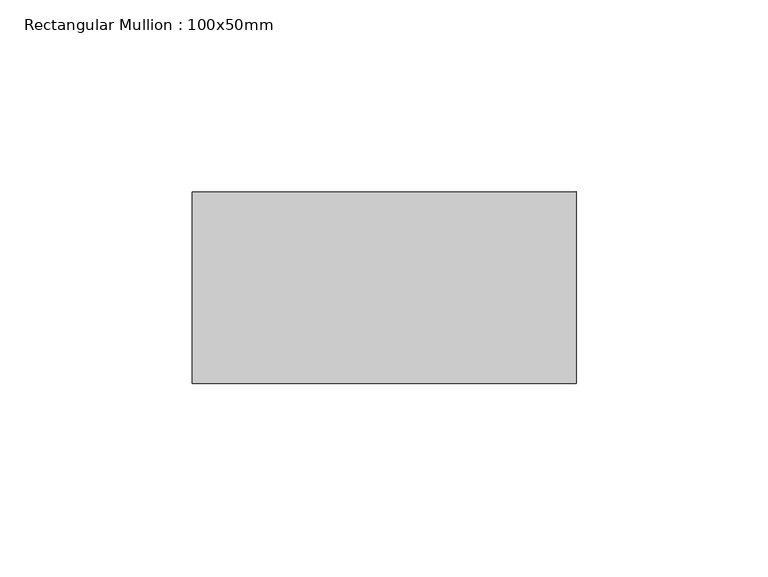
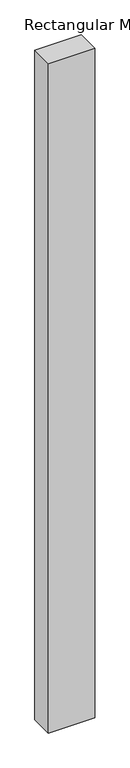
"""IFC4 building model written with IfcOpenShell, lengths in millimetres: member geometry, Rectangular Mullion : 100x50mm."""

import ifcopenshell
import ifcopenshell.guid

model = None  # the IFC model being written
_history = None  # IfcOwnerHistory: only IFC2X3 demands one
_inside = {}  # id of a spatial element -> (the spatial element, [elements in it])
_under = {}  # id of a project, library or spatial element -> (it, [spatial elements below it])
_declared = {}  # id of a project -> (the project, [libraries it declares])
_typed = {}  # id of a type object -> (the type object, [elements of that type])
_made_of = {}  # id of a material, layer set ... -> (it, [elements and type objects made of it])


def new_model(schema):
    """Start an empty IFC model of exactly this schema.

    Asked for "IFC4X3", IfcOpenShell would pick the latest addendum, in which some entities
    have other attributes; the version numbers below select the first issue.
    IFC2X3 requires an IfcOwnerHistory on every rooted entity: one is made here for all.
    """
    global model, _history
    if schema == "IFC4X3":
        model = ifcopenshell.file(schema_version=(4, 3, 0, 0))
    else:
        model = ifcopenshell.file(schema=schema)
    _inside.clear()
    _under.clear()
    _declared.clear()
    _typed.clear()
    _made_of.clear()
    _history = None
    if model.schema == "IFC2X3":
        org = make("IfcOrganization", Name="unknown")
        user = make(
            "IfcPersonAndOrganization",
            ThePerson=make("IfcPerson", FamilyName="unknown"),
            TheOrganization=org,
        )
        app = make(
            "IfcApplication",
            ApplicationDeveloper=org,
            Version="unknown",
            ApplicationFullName="unknown",
            ApplicationIdentifier="unknown",
        )
        _history = make(
            "IfcOwnerHistory",
            OwningUser=user,
            OwningApplication=app,
            ChangeAction="ADDED",
            CreationDate=0,
        )
    return model


def make(cls, **values):
    """One entity of the class cls with the attributes given. An attribute that is None is left unset."""
    return model.create_entity(
        cls, **{name: value for name, value in values.items() if value is not None}
    )


def rooted(cls, **values):
    """An entity with a GlobalId (a new one), such as an element, a storey or a relation."""
    return make(cls, GlobalId=ifcopenshell.guid.new(), OwnerHistory=_history, **values)


def si_unit(unit_type, name, prefix=None):
    """IfcSIUnit, for example si_unit("LENGTHUNIT", "METRE", prefix="MILLI")."""
    return make("IfcSIUnit", UnitType=unit_type, Prefix=prefix, Name=name)


def assignment(units):
    """IfcUnitAssignment: the units of a project."""
    return None if units is None else make("IfcUnitAssignment", Units=units)


def point(xyz):
    """IfcCartesianPoint."""
    return None if xyz is None else make("IfcCartesianPoint", Coordinates=xyz)


def direction(xyz):
    """IfcDirection."""
    return None if xyz is None else make("IfcDirection", DirectionRatios=xyz)


def frame(location, z_axis=None, x_axis=None):
    """IfcAxis2Placement3D, a coordinate frame: its origin and axes. An axis left out is left unset."""
    return make(
        "IfcAxis2Placement3D",
        Location=point(location),
        Axis=direction(z_axis),
        RefDirection=direction(x_axis),
    )


def origin():
    """The frame at (0, 0, 0) with its axes left unset."""
    return frame((0.0, 0.0, 0.0))


def place(relative_to, where):
    """IfcLocalPlacement: puts the frame where relative to a parent placement (None: the world)."""
    return make(
        "IfcLocalPlacement", PlacementRelTo=relative_to, RelativePlacement=where
    )


def context(
    kind, dimensions, precision=None, world=None, true_north=None, identifier=None
):
    """IfcGeometricRepresentationContext, for example the 3D "Model" context."""
    return make(
        "IfcGeometricRepresentationContext",
        ContextIdentifier=identifier,
        ContextType=kind,
        CoordinateSpaceDimension=dimensions,
        Precision=precision,
        WorldCoordinateSystem=world,
        TrueNorth=true_north,
    )


def project(units=None, contexts=None):
    """IfcProject with its units and contexts."""
    return rooted(
        "IfcProject",
        Name="project",
        RepresentationContexts=contexts,
        UnitsInContext=assignment(units),
    )


def spatial(cls, under=None, at=None, **own):
    """A site, building, storey or space (cls), placed at a placement, below another one or the project."""
    s = rooted(cls, ObjectPlacement=at, **own)
    if under is not None:
        _under.setdefault(under.id(), (under, []))[1].append(s)
    return s


def polyline(points):
    """IfcPolyline through the points."""
    return make("IfcPolyline", Points=[point(p) for p in points])


def outline(outer, holes=None, kind="AREA"):
    """IfcArbitraryClosedProfileDef: a profile drawn as a closed curve; with holes, ...WithVoids."""
    if holes is None:
        return make("IfcArbitraryClosedProfileDef", ProfileType=kind, OuterCurve=outer)
    return make(
        "IfcArbitraryProfileDefWithVoids",
        ProfileType=kind,
        OuterCurve=outer,
        InnerCurves=holes,
    )


def extrude(swept, where, along, depth):
    """IfcExtrudedAreaSolid: the profile swept, set in the frame where, extruded along a direction by depth."""
    return make(
        "IfcExtrudedAreaSolid",
        SweptArea=swept,
        Position=where,
        ExtrudedDirection=direction(along),
        Depth=depth,
    )


def shape(context_of_items, identifier, shape_type, items):
    """IfcShapeRepresentation: the items that make up one representation, for example the "Body"."""
    return make(
        "IfcShapeRepresentation",
        ContextOfItems=context_of_items,
        RepresentationIdentifier=identifier,
        RepresentationType=shape_type,
        Items=items,
    )


def source(mapping_origin, context_of_items, identifier, shape_type, items):
    """IfcRepresentationMap: a shape defined once, which mapped items show again and again."""
    return make(
        "IfcRepresentationMap",
        MappingOrigin=mapping_origin,
        MappedRepresentation=shape(context_of_items, identifier, shape_type, items),
    )


def transform(
    local_origin,
    x_axis=None,
    y_axis=None,
    z_axis=None,
    scale=None,
    scale2=None,
    scale3=None,
    uniform=True,
):
    """IfcCartesianTransformationOperator3D, or its non-uniform kind. x_axis, y_axis, z_axis: its Axis1, 2, 3."""
    if uniform:
        return make(
            "IfcCartesianTransformationOperator3D",
            Axis1=direction(x_axis),
            Axis2=direction(y_axis),
            LocalOrigin=point(local_origin),
            Scale=scale,
            Axis3=direction(z_axis),
        )
    return make(
        "IfcCartesianTransformationOperator3DnonUniform",
        Axis1=direction(x_axis),
        Axis2=direction(y_axis),
        LocalOrigin=point(local_origin),
        Scale=scale,
        Axis3=direction(z_axis),
        Scale2=scale2,
        Scale3=scale3,
    )


def mapped(mapping_source, mapping_target):
    """IfcMappedItem: shows the shape of a source again, moved by a transform."""
    return make(
        "IfcMappedItem", MappingSource=mapping_source, MappingTarget=mapping_target
    )


def made_of(thing, what):
    """Note that an element or type object is made of a material, layer set ...; save() writes the relation."""
    if what is not None:
        _made_of.setdefault(what.id(), (what, []))[1].append(thing)
    return thing


def element(
    cls,
    number,
    at=None,
    inside=None,
    cuts=None,
    type_object=None,
    material=None,
    context=None,
    identifier="Body",
    shape_type=None,
    held_by="IfcProductDefinitionShape",
    body=None,
    shapes=None,
    **own,
):
    """One element of the class cls, such as IfcWall. Its Tag is "e" and its number.

    at: its placement. inside: the storey or other place that contains it. cuts: it is an
    opening in that element (IfcRelVoidsElement). A single representation is given by context,
    identifier, shape_type and body (its items); several are given by shapes. held_by: the class
    of the entity that holds the representations. save() writes the other relations.
    """
    e = rooted(cls, Tag="e%d" % number, ObjectPlacement=at, **own)
    if body is not None:
        shapes = [shape(context, identifier, shape_type, body)]
    if shapes is not None:
        e.Representation = make(held_by, Representations=shapes)
    if inside is not None:
        _inside.setdefault(inside.id(), (inside, []))[1].append(e)
    if cuts is not None:
        rooted(
            "IfcRelVoidsElement", RelatingBuildingElement=cuts, RelatedOpeningElement=e
        )
    if type_object is not None:
        _typed.setdefault(type_object.id(), (type_object, []))[1].append(e)
    return made_of(e, material)


def aggregate(whole, parts):
    """IfcRelAggregates: a whole, such as a stair, and the parts it consists of."""
    return rooted("IfcRelAggregates", RelatingObject=whole, RelatedObjects=parts)


def save(model, path):
    """Write the relations noted so far, then the file.

    IfcRelAggregates (storeys below a building ...), IfcRelContainedInSpatialStructure (elements
    in a storey), IfcRelDefinesByType, IfcRelAssociatesMaterial and IfcRelDeclares: one each for
    every whole, place, type object, material and project.
    """
    for whole, parts in _under.values():
        aggregate(whole, parts)
    for where, things in _inside.values():
        rooted(
            "IfcRelContainedInSpatialStructure",
            RelatedElements=things,
            RelatingStructure=where,
        )
    for kind, things in _typed.values():
        rooted("IfcRelDefinesByType", RelatedObjects=things, RelatingType=kind)
    for what, things in _made_of.values():
        rooted("IfcRelAssociatesMaterial", RelatedObjects=things, RelatingMaterial=what)
    for by, libraries in _declared.values():
        rooted("IfcRelDeclares", RelatingContext=by, RelatedDefinitions=libraries)
    model.write(path)


def rectangular_mullion_100x50mm_1be3120e(model_context):
    return source(origin(), model_context, "Body", "SweptSolid", [
        extrude(outline(polyline([(0.0, 25.0), (0.0, -25.0), (-100.0, -25.0), (-100.0, 25.0), (0.0, 25.0)])), frame((0.0, 0.0, -1520.0184313), z_axis=(0.0, 0.0, 1.0), x_axis=(1.0, 0.0, 0.0)), (0.0, 0.0, 1.0), 1520.0184313),
    ])


if __name__ == "__main__":
    model = new_model("IFC4")
    model_context = context("Model", 3, world=origin())
    ifc_project = project(units=[si_unit("LENGTHUNIT", "METRE", prefix="MILLI")], contexts=[model_context])
    site = spatial("IfcSite", under=ifc_project)
    building = spatial("IfcBuilding", under=site)
    placement = place(None, origin())
    rectangular_mullion_100x50mm_shape = rectangular_mullion_100x50mm_1be3120e(model_context)
    element("IfcMember", 1, ObjectType="Rectangular Mullion : 100x50mm", at=placement, inside=building, context=model_context, shape_type="MappedRepresentation", body=[
        mapped(rectangular_mullion_100x50mm_shape, transform((0.0, 0.0, 0.0), x_axis=(1.0, 0.0, 0.0), y_axis=(0.0, 1.0, 0.0), z_axis=(0.0, 0.0, 1.0))),
    ])
    save(model, "model.ifc")
